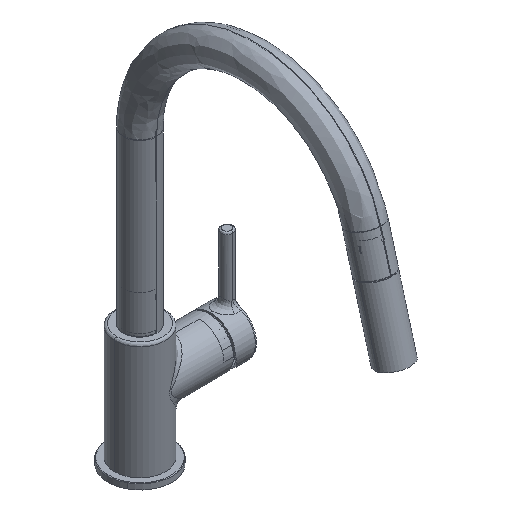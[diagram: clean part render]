
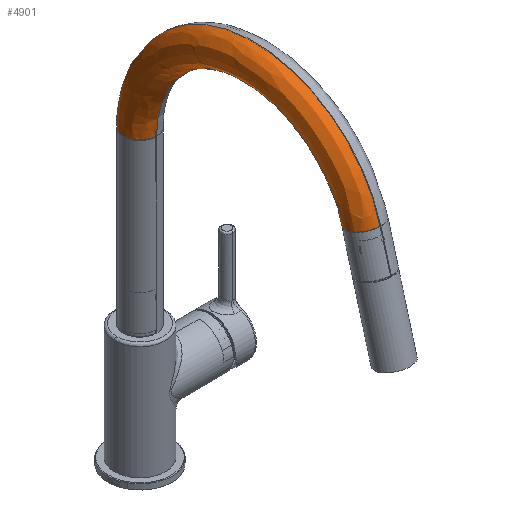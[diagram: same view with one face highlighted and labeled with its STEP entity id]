
A CAD part, isometric view. The second image highlights one B-rep face of the part: STEP entity #4901.
In plain terms, the highlighted free-form (B-spline) face has degree [2, 2] with [9, 9] control points.
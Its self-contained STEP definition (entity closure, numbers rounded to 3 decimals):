
#1227=TRIMMED_CURVE($,#2507,(#113233),(#113234),.T.,.CARTESIAN.);
#1233=TRIMMED_CURVE($,#2513,(#113307),(#113308),.T.,.CARTESIAN.);
#1234=TRIMMED_CURVE($,#2514,(#113310),(#113311),.T.,.CARTESIAN.);
#1239=TRIMMED_CURVE($,#2519,(#113333),(#113334),.T.,.CARTESIAN.);
#2507=CIRCLE('',#36026,14.);
#2513=CIRCLE('',#36032,82.812);
#2514=CIRCLE('',#36033,110.812);
#2519=CIRCLE('',#36038,14.);
#4901=ADVANCED_FACE('',(#6940),#31761,.T.);
#6940=FACE_OUTER_BOUND('',#8965,.T.);
#8965=EDGE_LOOP('',(#18756,#18757,#18758,#18759));
#18756=ORIENTED_EDGE('',*,*,#24004,.T.);
#18757=ORIENTED_EDGE('',*,*,#23994,.F.);
#18758=ORIENTED_EDGE('',*,*,#23980,.F.);
#18759=ORIENTED_EDGE('',*,*,#23995,.F.);
#23980=EDGE_CURVE('',#31057,#31056,#1227,.T.);
#23994=EDGE_CURVE('',#31056,#31061,#1233,.T.);
#23995=EDGE_CURVE('',#31062,#31057,#1234,.T.);
#24004=EDGE_CURVE('',#31062,#31061,#1239,.T.);
#31056=VERTEX_POINT('',#113088);
#31057=VERTEX_POINT('',#113089);
#31061=VERTEX_POINT('',#113093);
#31062=VERTEX_POINT('',#113094);
#31761=(
BOUNDED_SURFACE()
B_SPLINE_SURFACE(2,2,((#112979,#112980,#112981,#112982,#112983,#112984,
#112985,#112986,#112987),(#112988,#112989,#112990,#112991,#112992,#112993,
#112994,#112995,#112996),(#112997,#112998,#112999,#113000,#113001,#113002,
#113003,#113004,#113005),(#113006,#113007,#113008,#113009,#113010,#113011,
#113012,#113013,#113014),(#113015,#113016,#113017,#113018,#113019,#113020,
#113021,#113022,#113023),(#113024,#113025,#113026,#113027,#113028,#113029,
#113030,#113031,#113032),(#113033,#113034,#113035,#113036,#113037,#113038,
#113039,#113040,#113041),(#113042,#113043,#113044,#113045,#113046,#113047,
#113048,#113049,#113050),(#113051,#113052,#113053,#113054,#113055,#113056,
#113057,#113058,#113059)),.UNSPECIFIED.,.T.,.F.,.F.)
B_SPLINE_SURFACE_WITH_KNOTS((3,2,2,2,3),(3,2,2,2,3),(0.,152.071,
304.143,456.214,608.286),(0.,21.991,
43.982,65.973,87.965),.UNSPECIFIED.)
GEOMETRIC_REPRESENTATION_ITEM()
RATIONAL_B_SPLINE_SURFACE(((1.,0.707,1.,0.707,1.,
0.707,1.,0.707,1.),(0.707,0.5,0.707,
0.5,0.707,0.5,0.707,0.5,0.707),(1.,
0.707,1.,0.707,1.,0.707,1.,0.707,
1.),(0.707,0.5,0.707,0.5,0.707,0.5,
0.707,0.5,0.707),(1.,0.707,1.,0.707,
1.,0.707,1.,0.707,1.),(0.707,0.5,0.707,
0.5,0.707,0.5,0.707,0.5,0.707),(1.,
0.707,1.,0.707,1.,0.707,1.,0.707,
1.),(0.707,0.5,0.707,0.5,0.707,0.5,
0.707,0.5,0.707),(1.,0.707,1.,0.707,
1.,0.707,1.,0.707,1.)))
REPRESENTATION_ITEM('')
SURFACE()
);
#36026=AXIS2_PLACEMENT_3D($,#113232,#39827,#39828);
#36032=AXIS2_PLACEMENT_3D($,#113306,#39839,#39840);
#36033=AXIS2_PLACEMENT_3D($,#113309,#39841,#39842);
#36038=AXIS2_PLACEMENT_3D($,#113332,#39851,#39852);
#39827=DIRECTION('',(0.965,0.264,0.));
#39828=DIRECTION('',(-0.264,0.965,0.));
#39839=DIRECTION('',(0.,0.,1.));
#39840=DIRECTION('',(-0.264,0.965,0.));
#39841=DIRECTION('',(0.,0.,-1.));
#39842=DIRECTION('',(0.,-1.,0.));
#39851=DIRECTION('',(-1.,0.,0.));
#39852=DIRECTION('',(0.,-1.,0.));
#112979=CARTESIAN_POINT('',(3.712,115.124,0.));
#112980=CARTESIAN_POINT('',(3.712,115.124,-14.));
#112981=CARTESIAN_POINT('',(3.712,101.124,-14.));
#112982=CARTESIAN_POINT('',(3.712,87.124,-14.));
#112983=CARTESIAN_POINT('',(3.712,87.124,0.));
#112984=CARTESIAN_POINT('',(3.712,87.124,14.));
#112985=CARTESIAN_POINT('',(3.712,101.124,14.));
#112986=CARTESIAN_POINT('',(3.712,115.124,14.));
#112987=CARTESIAN_POINT('',(3.712,115.124,0.));
#112988=CARTESIAN_POINT('',(114.523,115.124,0.));
#112989=CARTESIAN_POINT('',(114.523,115.124,-14.));
#112990=CARTESIAN_POINT('',(100.523,101.124,-14.));
#112991=CARTESIAN_POINT('',(86.523,87.124,-14.));
#112992=CARTESIAN_POINT('',(86.523,87.124,0.));
#112993=CARTESIAN_POINT('',(86.523,87.124,14.));
#112994=CARTESIAN_POINT('',(100.523,101.124,14.));
#112995=CARTESIAN_POINT('',(114.523,115.124,14.));
#112996=CARTESIAN_POINT('',(114.523,115.124,0.));
#112997=CARTESIAN_POINT('',(114.523,4.312,0.));
#112998=CARTESIAN_POINT('',(114.523,4.312,-14.));
#112999=CARTESIAN_POINT('',(100.523,4.312,-14.));
#113000=CARTESIAN_POINT('',(86.523,4.312,-14.));
#113001=CARTESIAN_POINT('',(86.523,4.312,0.));
#113002=CARTESIAN_POINT('',(86.523,4.312,14.));
#113003=CARTESIAN_POINT('',(100.523,4.312,14.));
#113004=CARTESIAN_POINT('',(114.523,4.312,14.));
#113005=CARTESIAN_POINT('',(114.523,4.312,0.));
#113006=CARTESIAN_POINT('',(114.523,-106.5,0.));
#113007=CARTESIAN_POINT('',(114.523,-106.5,-14.));
#113008=CARTESIAN_POINT('',(100.523,-92.5,-14.));
#113009=CARTESIAN_POINT('',(86.523,-78.5,-14.));
#113010=CARTESIAN_POINT('',(86.523,-78.5,0.));
#113011=CARTESIAN_POINT('',(86.523,-78.5,14.));
#113012=CARTESIAN_POINT('',(100.523,-92.5,14.));
#113013=CARTESIAN_POINT('',(114.523,-106.5,14.));
#113014=CARTESIAN_POINT('',(114.523,-106.5,0.));
#113015=CARTESIAN_POINT('',(3.712,-106.5,0.));
#113016=CARTESIAN_POINT('',(3.712,-106.5,-14.));
#113017=CARTESIAN_POINT('',(3.712,-92.5,-14.));
#113018=CARTESIAN_POINT('',(3.712,-78.5,-14.));
#113019=CARTESIAN_POINT('',(3.712,-78.5,0.));
#113020=CARTESIAN_POINT('',(3.712,-78.5,14.));
#113021=CARTESIAN_POINT('',(3.712,-92.5,14.));
#113022=CARTESIAN_POINT('',(3.712,-106.5,14.));
#113023=CARTESIAN_POINT('',(3.712,-106.5,0.));
#113024=CARTESIAN_POINT('',(-107.1,-106.5,0.));
#113025=CARTESIAN_POINT('',(-107.1,-106.5,-14.));
#113026=CARTESIAN_POINT('',(-93.1,-92.5,-14.));
#113027=CARTESIAN_POINT('',(-79.1,-78.5,-14.));
#113028=CARTESIAN_POINT('',(-79.1,-78.5,0.));
#113029=CARTESIAN_POINT('',(-79.1,-78.5,14.));
#113030=CARTESIAN_POINT('',(-93.1,-92.5,14.));
#113031=CARTESIAN_POINT('',(-107.1,-106.5,14.));
#113032=CARTESIAN_POINT('',(-107.1,-106.5,0.));
#113033=CARTESIAN_POINT('',(-107.1,4.312,0.));
#113034=CARTESIAN_POINT('',(-107.1,4.312,-14.));
#113035=CARTESIAN_POINT('',(-93.1,4.312,-14.));
#113036=CARTESIAN_POINT('',(-79.1,4.312,-14.));
#113037=CARTESIAN_POINT('',(-79.1,4.312,0.));
#113038=CARTESIAN_POINT('',(-79.1,4.312,14.));
#113039=CARTESIAN_POINT('',(-93.1,4.312,14.));
#113040=CARTESIAN_POINT('',(-107.1,4.312,14.));
#113041=CARTESIAN_POINT('',(-107.1,4.312,0.));
#113042=CARTESIAN_POINT('',(-107.1,115.124,0.));
#113043=CARTESIAN_POINT('',(-107.1,115.124,-14.));
#113044=CARTESIAN_POINT('',(-93.1,101.124,-14.));
#113045=CARTESIAN_POINT('',(-79.1,87.124,-14.));
#113046=CARTESIAN_POINT('',(-79.1,87.124,0.));
#113047=CARTESIAN_POINT('',(-79.1,87.124,14.));
#113048=CARTESIAN_POINT('',(-93.1,101.124,14.));
#113049=CARTESIAN_POINT('',(-107.1,115.124,14.));
#113050=CARTESIAN_POINT('',(-107.1,115.124,0.));
#113051=CARTESIAN_POINT('',(3.712,115.124,0.));
#113052=CARTESIAN_POINT('',(3.712,115.124,-14.));
#113053=CARTESIAN_POINT('',(3.712,101.124,-14.));
#113054=CARTESIAN_POINT('',(3.712,87.124,-14.));
#113055=CARTESIAN_POINT('',(3.712,87.124,0.));
#113056=CARTESIAN_POINT('',(3.712,87.124,14.));
#113057=CARTESIAN_POINT('',(3.712,101.124,14.));
#113058=CARTESIAN_POINT('',(3.712,115.124,14.));
#113059=CARTESIAN_POINT('',(3.712,115.124,0.));
#113088=CARTESIAN_POINT('',(-18.137,84.189,0.));
#113089=CARTESIAN_POINT('',(-25.524,111.197,0.));
#113093=CARTESIAN_POINT('',(3.712,-78.5,0.));
#113094=CARTESIAN_POINT('',(3.712,-106.5,0.));
#113232=CARTESIAN_POINT('',(-21.831,97.693,0.));
#113233=CARTESIAN_POINT('',(-25.524,111.197,0.));
#113234=CARTESIAN_POINT('',(-18.137,84.189,0.));
#113306=CARTESIAN_POINT('',(3.712,4.312,0.));
#113307=CARTESIAN_POINT('',(-18.137,84.189,0.));
#113308=CARTESIAN_POINT('',(3.712,-78.5,0.));
#113309=CARTESIAN_POINT('',(3.712,4.312,0.));
#113310=CARTESIAN_POINT('',(3.712,-106.5,0.));
#113311=CARTESIAN_POINT('',(-25.524,111.197,0.));
#113332=CARTESIAN_POINT('',(3.712,-92.5,0.));
#113333=CARTESIAN_POINT('',(3.712,-106.5,0.));
#113334=CARTESIAN_POINT('',(3.712,-78.5,0.));
